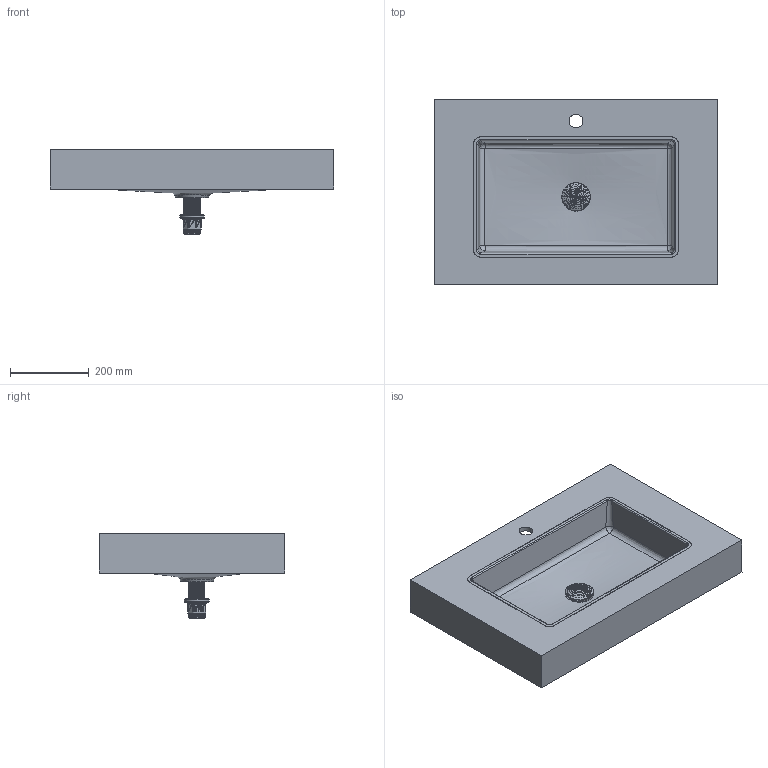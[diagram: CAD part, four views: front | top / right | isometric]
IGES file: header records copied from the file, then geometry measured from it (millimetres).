
Start section: Data from Parasolid IGES Translator 19.0.9, Copyright(c) 2006 Siemens PL M Software. All Rights Reserved.
Global section: file name: noorth-top-H 10 D 47,3 W 72_6531.igs; native system: By Siemens PLM Incorporated; preprocessor: XPlus GENERIC/IGES 19.0.9; author: Noname; organization: Noname; date: 20200603.085823; units: metre
Bounding box: 720 x 472 x 215.1 mm (x, y, z)
Volume: 6959202.7 mm3; surface area: 1334644.3 mm2
Topology: 2 solids, 2 shells, 11695 faces, 35045 edges, 34967 vertices
Faces by surface type: extrusion 11618, bspline 40, plane 28, cylinder 7, cone 2
Full cylindrical faces by diameter (mm): 34.9 x1, 45 x1, 46.029 x1
